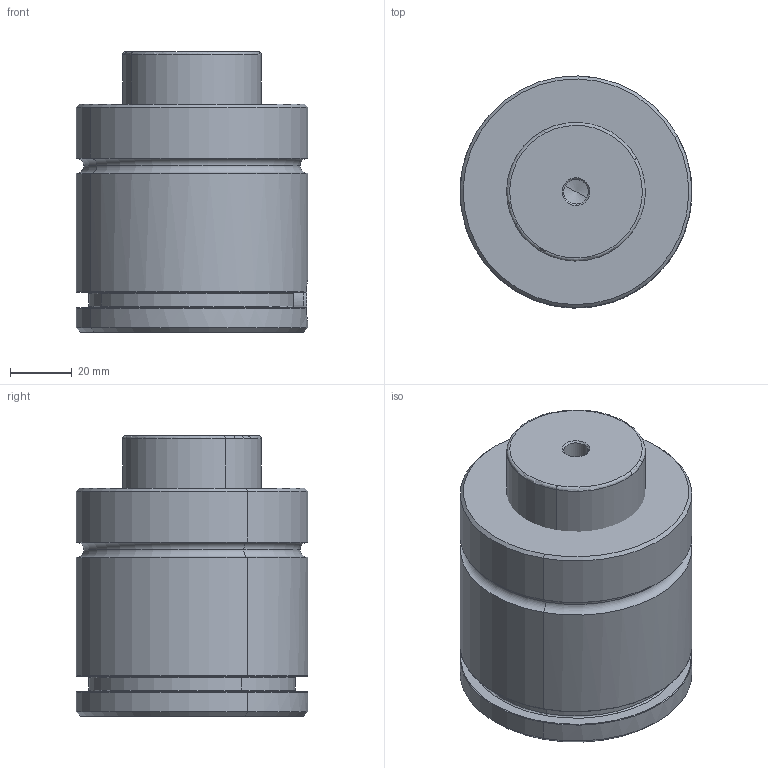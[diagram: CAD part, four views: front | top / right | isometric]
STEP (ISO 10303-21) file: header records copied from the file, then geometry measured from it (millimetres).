
FILE_DESCRIPTION(('CATIA V5 STEP Exchange'),'2;1');
FILE_NAME('W:\CATALOGO GENERAL 2018\FICHEROS CAD\001-MICRO\MICRO 75CF\MICRO 75CFx16.stp','2017-10-27T08:03:48+00:00',('none'),('none'),'CATIA Version 5 Release 17 (IN-10)','CATIA V5 STEP AP203','none');
FILE_SCHEMA(('CONFIG_CONTROL_DESIGN'));
Length unit declared in the file: millimetre
Products named in the file (1): MICRO 75CFx16
Assembly tree (3 placements, depth 2):
  MICRO 75CFx16
    #56
    #1294
    #3494
Bounding box: 75.19 x 75.18 x 91 mm (x, y, z)
Volume: 378718.9 mm3; surface area: 46268.4 mm2
Topology: 3 solids, 3 shells, 189 faces, 408 edges, 228 vertices
Faces by surface type: torus 67, cone 60, cylinder 39, plane 23
Entity records: 5737 total; most frequent: CARTESIAN_POINT 1834, ORIENTED_EDGE 796, DIRECTION 699, EDGE_CURVE 398, AXIS2_PLACEMENT_3D 397, VERTEX_POINT 228, CIRCLE 209, EDGE_LOOP 202
